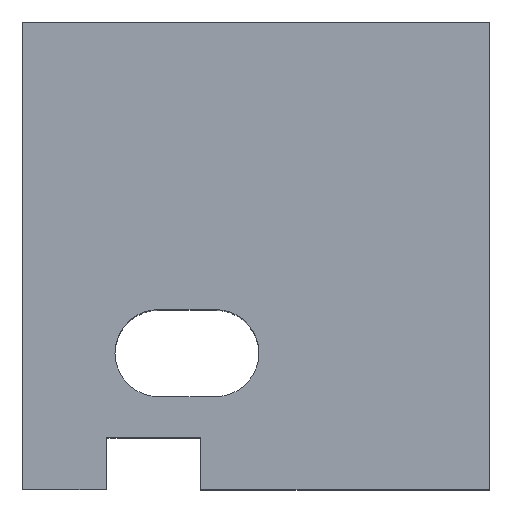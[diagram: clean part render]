
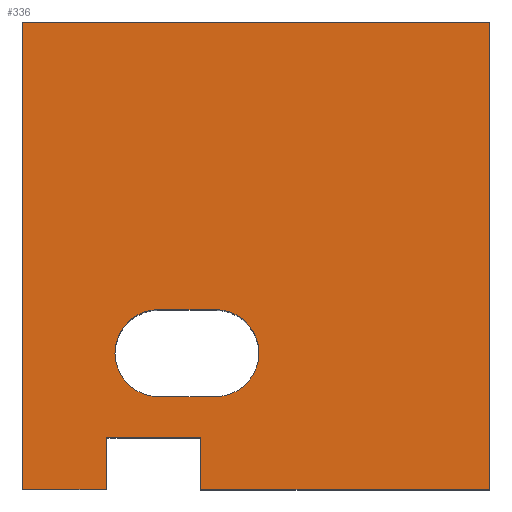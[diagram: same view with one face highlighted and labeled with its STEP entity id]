
A CAD part, top view. The second image highlights one B-rep face of the part: STEP entity #336.
In plain terms, the highlighted planar face has unit normal (0, 0, 1).
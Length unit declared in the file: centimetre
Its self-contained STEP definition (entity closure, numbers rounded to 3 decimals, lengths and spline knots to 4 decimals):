
#11 = DIRECTION ( 'NONE',  ( 0., 0., -1. ) ) ;
#19 = FACE_OUTER_BOUND ( 'NONE', #1179, .T. ) ;
#28 = EDGE_CURVE ( 'NONE', #79, #606, #727, .T. ) ;
#30 = VERTEX_POINT ( 'NONE', #1158 ) ;
#45 = DIRECTION ( 'NONE',  ( 0., -1., 0. ) ) ;
#49 = CARTESIAN_POINT ( 'NONE',  ( 413.1395, 291.3566, 1000. ) ) ;
#63 = CARTESIAN_POINT ( 'NONE',  ( 0., 1000., 1000. ) ) ;
#67 = ORIENTED_EDGE ( 'NONE', *, *, #932, .T. ) ;
#78 = DIRECTION ( 'NONE',  ( 1., 0., 0. ) ) ;
#79 = VERTEX_POINT ( 'NONE', #647 ) ;
#118 = CARTESIAN_POINT ( 'NONE',  ( 1000., 1000., 1000. ) ) ;
#128 = AXIS2_PLACEMENT_3D ( 'NONE', #1148, #941, #454 ) ;
#129 = CARTESIAN_POINT ( 'NONE',  ( 291.323, 198.1911, 1000. ) ) ;
#133 = ORIENTED_EDGE ( 'NONE', *, *, #1008, .T. ) ;
#151 = ORIENTED_EDGE ( 'NONE', *, *, #1246, .T. ) ;
#159 = ORIENTED_EDGE ( 'NONE', *, *, #1153, .T. ) ;
#188 = DIRECTION ( 'NONE',  ( 0., 1., 0. ) ) ;
#189 = LINE ( 'NONE', #365, #378 ) ;
#212 = CARTESIAN_POINT ( 'NONE',  ( 1000., 0., 1000. ) ) ;
#214 = CARTESIAN_POINT ( 'NONE',  ( 1000., 1000., 1000. ) ) ;
#233 = ORIENTED_EDGE ( 'NONE', *, *, #734, .T. ) ;
#243 = VERTEX_POINT ( 'NONE', #212 ) ;
#247 = CARTESIAN_POINT ( 'NONE',  ( 0., 0., 1000. ) ) ;
#263 = DIRECTION ( 'NONE',  ( 0., -1., 0. ) ) ;
#264 = ORIENTED_EDGE ( 'NONE', *, *, #292, .T. ) ;
#283 = CARTESIAN_POINT ( 'NONE',  ( 179.5236, 0., 1000. ) ) ;
#287 = EDGE_LOOP ( 'NONE', ( #576, #646, #519, #151, #630 ) ) ;
#292 = EDGE_CURVE ( 'NONE', #682, #573, #678, .T. ) ;
#294 = CARTESIAN_POINT ( 'NONE',  ( 179.5236, 0., 1000. ) ) ;
#299 = EDGE_CURVE ( 'NONE', #834, #682, #1092, .T. ) ;
#336 = ADVANCED_FACE ( 'NONE', ( #19, #1247 ), #1139, .T. ) ;
#363 = VECTOR ( 'NONE', #649, 100. ) ;
#365 = CARTESIAN_POINT ( 'NONE',  ( 0., 1000., 1000. ) ) ;
#378 = VECTOR ( 'NONE', #263, 100. ) ;
#393 = VERTEX_POINT ( 'NONE', #1271 ) ;
#406 = VECTOR ( 'NONE', #1210, 100. ) ;
#417 = VECTOR ( 'NONE', #1050, 100. ) ;
#418 = VECTOR ( 'NONE', #900, 100. ) ;
#441 = LINE ( 'NONE', #762, #712 ) ;
#452 = DIRECTION ( 'NONE',  ( 0., 0., -1. ) ) ;
#454 = DIRECTION ( 'NONE',  ( 1., 0., 0. ) ) ;
#473 = LINE ( 'NONE', #63, #821 ) ;
#475 = VECTOR ( 'NONE', #188, 100. ) ;
#478 = CARTESIAN_POINT ( 'NONE',  ( 381.6471, 110.8116, 1000. ) ) ;
#519 = ORIENTED_EDGE ( 'NONE', *, *, #527, .T. ) ;
#527 = EDGE_CURVE ( 'NONE', #30, #1091, #791, .T. ) ;
#561 = CARTESIAN_POINT ( 'NONE',  ( 179.5236, 110.8116, 1000. ) ) ;
#572 = AXIS2_PLACEMENT_3D ( 'NONE', #906, #11, #634 ) ;
#573 = VERTEX_POINT ( 'NONE', #478 ) ;
#576 = ORIENTED_EDGE ( 'NONE', *, *, #668, .T. ) ;
#577 = VERTEX_POINT ( 'NONE', #1017 ) ;
#600 = DIRECTION ( 'NONE',  ( 1., 0., 0. ) ) ;
#606 = VERTEX_POINT ( 'NONE', #129 ) ;
#629 = DIRECTION ( 'NONE',  ( 0., 0., 1. ) ) ;
#630 = ORIENTED_EDGE ( 'NONE', *, *, #28, .T. ) ;
#634 = DIRECTION ( 'NONE',  ( 1., 0., 0. ) ) ;
#637 = DIRECTION ( 'NONE',  ( 1., 0., 0. ) ) ;
#646 = ORIENTED_EDGE ( 'NONE', *, *, #870, .T. ) ;
#647 = CARTESIAN_POINT ( 'NONE',  ( 413.1395, 198.1911, 1000. ) ) ;
#649 = DIRECTION ( 'NONE',  ( 0., 1., 0. ) ) ;
#664 = CARTESIAN_POINT ( 'NONE',  ( 413.1395, 384.5221, 1000. ) ) ;
#668 = EDGE_CURVE ( 'NONE', #606, #393, #702, .T. ) ;
#678 = LINE ( 'NONE', #1105, #418 ) ;
#682 = VERTEX_POINT ( 'NONE', #561 ) ;
#684 = VECTOR ( 'NONE', #600, 100. ) ;
#702 = CIRCLE ( 'NONE', #128, 93.1655 ) ;
#706 = AXIS2_PLACEMENT_3D ( 'NONE', #49, #452, #868 ) ;
#712 = VECTOR ( 'NONE', #45, 100. ) ;
#727 = LINE ( 'NONE', #744, #417 ) ;
#734 = EDGE_CURVE ( 'NONE', #1312, #970, #473, .T. ) ;
#744 = CARTESIAN_POINT ( 'NONE',  ( 291.323, 198.1911, 1000. ) ) ;
#762 = CARTESIAN_POINT ( 'NONE',  ( 381.6471, 0., 1000. ) ) ;
#791 = LINE ( 'NONE', #993, #1111 ) ;
#821 = VECTOR ( 'NONE', #1317, 100. ) ;
#830 = EDGE_CURVE ( 'NONE', #1045, #834, #984, .T. ) ;
#834 = VERTEX_POINT ( 'NONE', #294 ) ;
#868 = DIRECTION ( 'NONE',  ( 1., 0., 0. ) ) ;
#870 = EDGE_CURVE ( 'NONE', #393, #30, #872, .T. ) ;
#872 = CIRCLE ( 'NONE', #572, 93.1655 ) ;
#891 = CARTESIAN_POINT ( 'NONE',  ( 0., 0., 1000. ) ) ;
#900 = DIRECTION ( 'NONE',  ( 1., 0., 0. ) ) ;
#906 = CARTESIAN_POINT ( 'NONE',  ( 291.323, 291.3566, 1000. ) ) ;
#932 = EDGE_CURVE ( 'NONE', #577, #243, #1128, .T. ) ;
#941 = DIRECTION ( 'NONE',  ( 0., 0., -1. ) ) ;
#966 = EDGE_CURVE ( 'NONE', #243, #1312, #1116, .T. ) ;
#970 = VERTEX_POINT ( 'NONE', #1063 ) ;
#984 = LINE ( 'NONE', #891, #406 ) ;
#993 = CARTESIAN_POINT ( 'NONE',  ( 413.1395, 384.5221, 1000. ) ) ;
#1008 = EDGE_CURVE ( 'NONE', #573, #577, #441, .T. ) ;
#1017 = CARTESIAN_POINT ( 'NONE',  ( 381.6471, 0., 1000. ) ) ;
#1045 = VERTEX_POINT ( 'NONE', #247 ) ;
#1050 = DIRECTION ( 'NONE',  ( -1., 0., 0. ) ) ;
#1055 = ORIENTED_EDGE ( 'NONE', *, *, #830, .T. ) ;
#1063 = CARTESIAN_POINT ( 'NONE',  ( 0., 1000., 1000. ) ) ;
#1091 = VERTEX_POINT ( 'NONE', #664 ) ;
#1092 = LINE ( 'NONE', #283, #475 ) ;
#1105 = CARTESIAN_POINT ( 'NONE',  ( 179.5236, 110.8116, 1000. ) ) ;
#1111 = VECTOR ( 'NONE', #78, 100. ) ;
#1116 = LINE ( 'NONE', #214, #363 ) ;
#1128 = LINE ( 'NONE', #1134, #684 ) ;
#1132 = CIRCLE ( 'NONE', #706, 93.1655 ) ;
#1134 = CARTESIAN_POINT ( 'NONE',  ( 0., 0., 1000. ) ) ;
#1139 = PLANE ( 'NONE',  #1213 ) ;
#1148 = CARTESIAN_POINT ( 'NONE',  ( 291.323, 291.3566, 1000. ) ) ;
#1153 = EDGE_CURVE ( 'NONE', #970, #1045, #189, .T. ) ;
#1158 = CARTESIAN_POINT ( 'NONE',  ( 291.323, 384.5221, 1000. ) ) ;
#1173 = ORIENTED_EDGE ( 'NONE', *, *, #966, .T. ) ;
#1179 = EDGE_LOOP ( 'NONE', ( #1198, #264, #133, #67, #1173, #233, #159, #1055 ) ) ;
#1198 = ORIENTED_EDGE ( 'NONE', *, *, #299, .T. ) ;
#1210 = DIRECTION ( 'NONE',  ( 1., 0., 0. ) ) ;
#1213 = AXIS2_PLACEMENT_3D ( 'NONE', #1258, #629, #637 ) ;
#1246 = EDGE_CURVE ( 'NONE', #1091, #79, #1132, .T. ) ;
#1247 = FACE_BOUND ( 'NONE', #287, .T. ) ;
#1258 = CARTESIAN_POINT ( 'NONE',  ( 0., 0., 1000. ) ) ;
#1271 = CARTESIAN_POINT ( 'NONE',  ( 198.1575, 291.3566, 1000. ) ) ;
#1312 = VERTEX_POINT ( 'NONE', #118 ) ;
#1317 = DIRECTION ( 'NONE',  ( -1., 0., 0. ) ) ;
